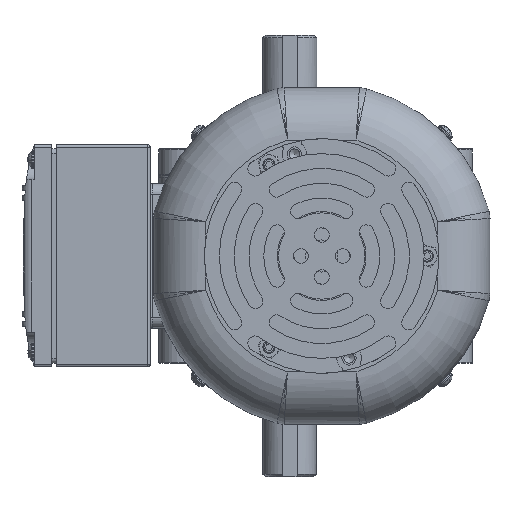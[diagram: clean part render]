
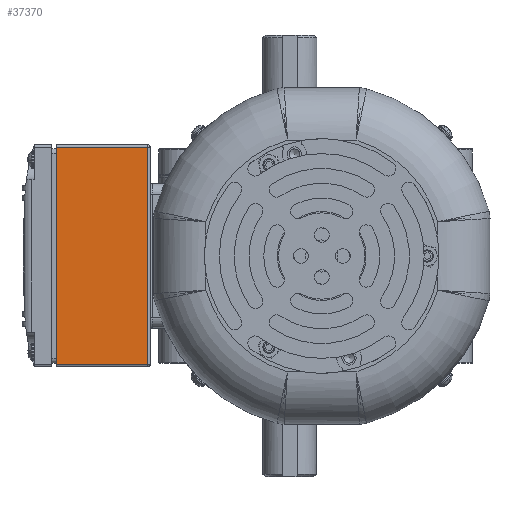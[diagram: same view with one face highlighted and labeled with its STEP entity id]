
A CAD part, left-side view. The second image highlights one B-rep face of the part: STEP entity #37370.
In plain terms, the highlighted planar face has unit normal (-1, 0, 0).
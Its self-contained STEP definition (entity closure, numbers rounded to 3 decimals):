
#3148=PLANE('',#40072);
#4365=FACE_OUTER_BOUND('',#6595,.T.);
#6595=EDGE_LOOP('',(#27948,#27949,#27950,#27951));
#9252=LINE('',#59753,#12043);
#9253=LINE('',#59755,#12044);
#9254=LINE('',#59757,#12045);
#9255=LINE('',#59758,#12046);
#12043=VECTOR('',#46202,10.);
#12044=VECTOR('',#46203,10.);
#12045=VECTOR('',#46204,10.);
#12046=VECTOR('',#46205,10.);
#17228=VERTEX_POINT('',#59751);
#17229=VERTEX_POINT('',#59752);
#17230=VERTEX_POINT('',#59754);
#17231=VERTEX_POINT('',#59756);
#21184=EDGE_CURVE('',#17228,#17229,#9252,.T.);
#21185=EDGE_CURVE('',#17230,#17228,#9253,.T.);
#21186=EDGE_CURVE('',#17230,#17231,#9254,.T.);
#21187=EDGE_CURVE('',#17229,#17231,#9255,.T.);
#27948=ORIENTED_EDGE('',*,*,#21184,.F.);
#27949=ORIENTED_EDGE('',*,*,#21185,.F.);
#27950=ORIENTED_EDGE('',*,*,#21186,.T.);
#27951=ORIENTED_EDGE('',*,*,#21187,.F.);
#37370=ADVANCED_FACE('',(#4365),#3148,.T.);
#40072=AXIS2_PLACEMENT_3D('',#59750,#46200,#46201);
#46200=DIRECTION('center_axis',(-1.,0.,0.));
#46201=DIRECTION('ref_axis',(0.,1.,0.));
#46202=DIRECTION('',(0.,0.,-1.));
#46203=DIRECTION('',(0.,-1.,0.));
#46204=DIRECTION('',(0.,0.,-1.));
#46205=DIRECTION('',(0.,1.,0.));
#59750=CARTESIAN_POINT('Origin',(-239.,56.5,45.065));
#59751=CARTESIAN_POINT('',(-239.,57.5,44.065));
#59752=CARTESIAN_POINT('',(-239.,57.5,-43.935));
#59753=CARTESIAN_POINT('',(-239.,57.5,22.565));
#59754=CARTESIAN_POINT('',(-239.,94.5,44.065));
#59755=CARTESIAN_POINT('',(-239.,56.5,44.065));
#59756=CARTESIAN_POINT('',(-239.,94.5,-43.935));
#59757=CARTESIAN_POINT('',(-239.,94.5,-44.935));
#59758=CARTESIAN_POINT('',(-239.,56.5,-43.935));
